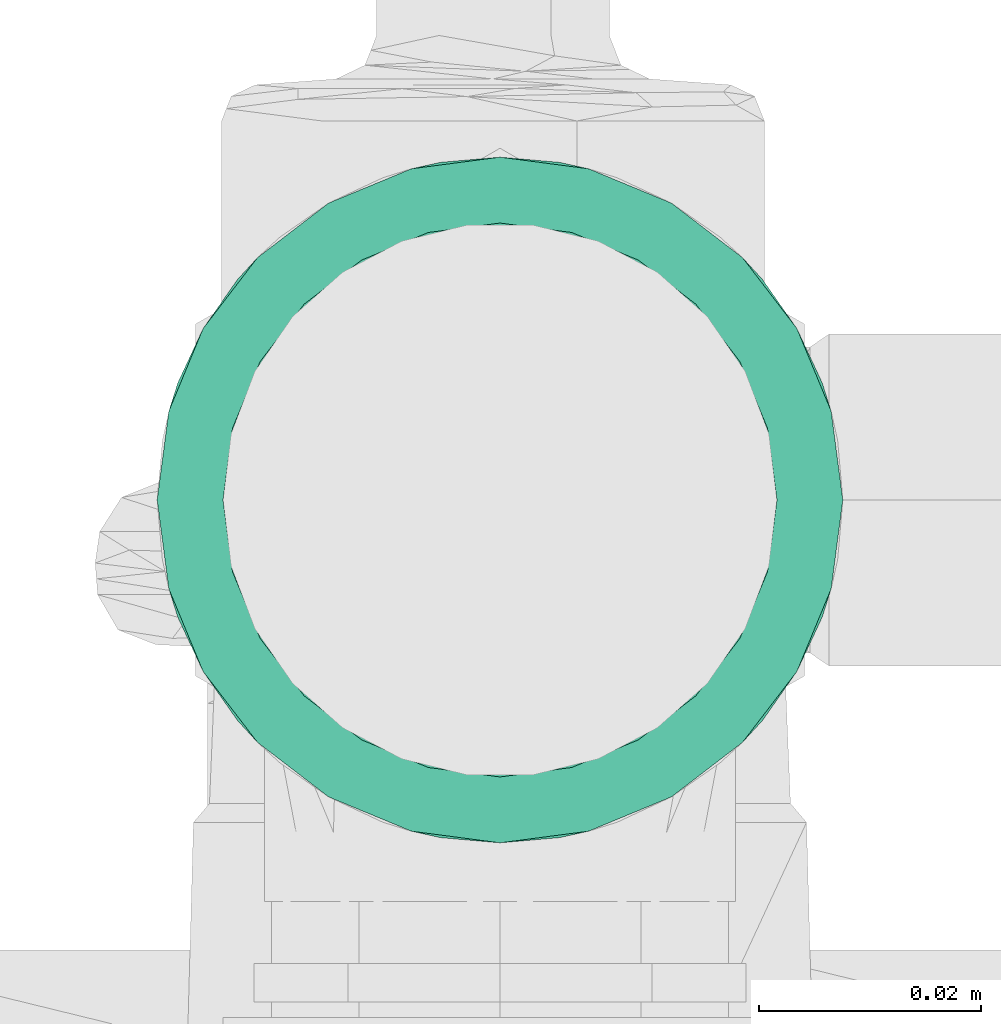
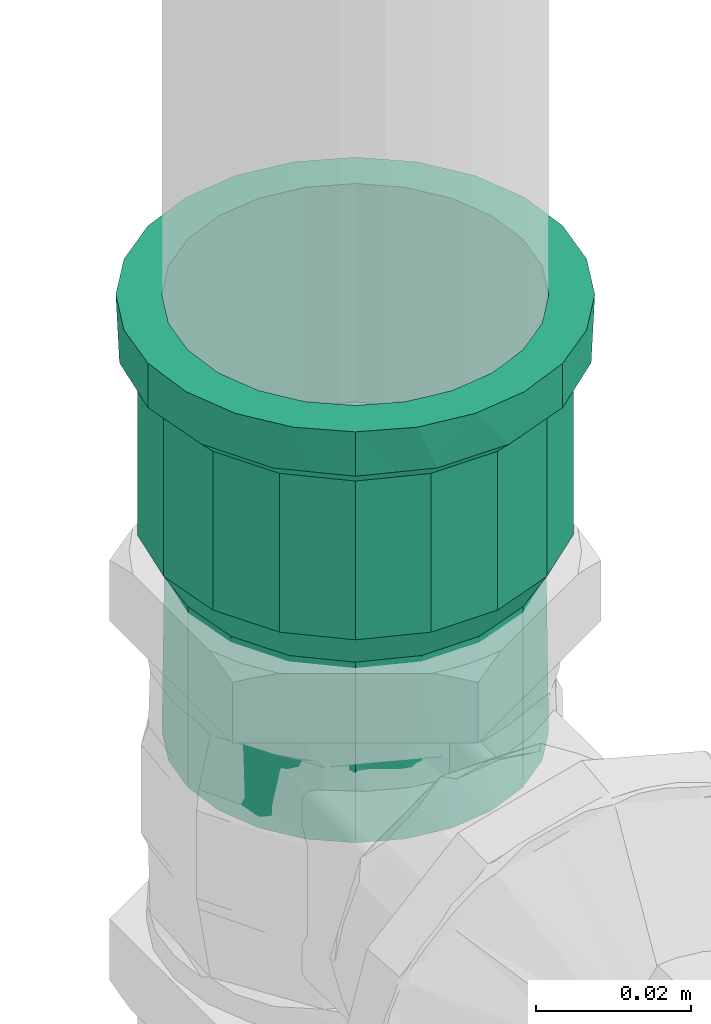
# One storey, part 154 of 589: 1 flow fitting.
"""IFC2X3 building model written with IfcOpenShell, lengths in millimetres."""

from ifc_helpers import new_model, entity, si_unit, converted_unit, derived_unit, direction, frame, origin, place, context, subcontext, project, spatial, faceted_brep, source, transform, mapped, material, type_object, type_shapes, element, save


model = new_model("IFC2X3")

# Units and contexts
model_context = context("Model", 3, precision=0.01, world=origin(), true_north=direction((6.123031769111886e-17, 1.0)))
body_context = subcontext(model_context, "Body", "Model", "MODEL_VIEW")
ifc_project = project(units=[si_unit("LENGTHUNIT", "METRE", prefix="MILLI"), si_unit("AREAUNIT", "SQUARE_METRE"), si_unit("VOLUMEUNIT", "CUBIC_METRE"), converted_unit("PLANEANGLEUNIT", "DEGREE", entity("IfcRatioMeasure", 0.017453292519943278), si_unit("PLANEANGLEUNIT", "RADIAN"), dimensions=[0, 0, 0, 0, 0, 0, 0]), si_unit("MASSUNIT", "GRAM", prefix="KILO"), derived_unit("MASSDENSITYUNIT", [(si_unit("MASSUNIT", "GRAM", prefix="KILO"), 1), (si_unit("LENGTHUNIT", "METRE"), -3)]), derived_unit("IONCONCENTRATIONUNIT", [(si_unit("MASSUNIT", "GRAM", prefix="KILO"), 1), (si_unit("LENGTHUNIT", "METRE"), -3)]), derived_unit("MOMENTOFINERTIAUNIT", [(si_unit("LENGTHUNIT", "METRE"), 4)]), si_unit("TIMEUNIT", "SECOND"), si_unit("FREQUENCYUNIT", "HERTZ"), si_unit("THERMODYNAMICTEMPERATUREUNIT", "DEGREE_CELSIUS"), derived_unit("THERMALTRANSMITTANCEUNIT", [(si_unit("MASSUNIT", "GRAM", prefix="KILO"), 1), (si_unit("THERMODYNAMICTEMPERATUREUNIT", "KELVIN"), -1), (si_unit("TIMEUNIT", "SECOND"), -3)]), derived_unit("THERMALCONDUCTANCEUNIT", [(si_unit("MASSUNIT", "GRAM", prefix="KILO"), 1), (si_unit("THERMODYNAMICTEMPERATUREUNIT", "KELVIN"), -1), (si_unit("TIMEUNIT", "SECOND"), -3), (si_unit("LENGTHUNIT", "METRE"), 1)]), derived_unit("VOLUMETRICFLOWRATEUNIT", [(si_unit("LENGTHUNIT", "METRE"), 3), (si_unit("TIMEUNIT", "SECOND"), -1)]), derived_unit("MASSFLOWRATEUNIT", [(si_unit("MASSUNIT", "GRAM", prefix="KILO"), 1), (si_unit("TIMEUNIT", "SECOND"), -1)]), derived_unit("ROTATIONALFREQUENCYUNIT", [(si_unit("TIMEUNIT", "SECOND"), -1)]), si_unit("ELECTRICCURRENTUNIT", "AMPERE"), si_unit("ELECTRICVOLTAGEUNIT", "VOLT"), si_unit("POWERUNIT", "WATT"), si_unit("FORCEUNIT", "NEWTON", prefix="KILO"), si_unit("ILLUMINANCEUNIT", "LUX"), si_unit("LUMINOUSFLUXUNIT", "LUMEN"), si_unit("LUMINOUSINTENSITYUNIT", "CANDELA"), derived_unit("USERDEFINED", [(si_unit("MASSUNIT", "GRAM", prefix="KILO"), -1), (si_unit("LENGTHUNIT", "METRE"), -2), (si_unit("TIMEUNIT", "SECOND"), 3), (si_unit("LUMINOUSFLUXUNIT", "LUMEN"), 1)]), derived_unit("USERDEFINED", [(si_unit("MASSUNIT", "GRAM", prefix="KILO"), 1), (si_unit("TIMEUNIT", "SECOND"), -3), (si_unit("LENGTHUNIT", "METRE"), 3), (si_unit("ELECTRICCURRENTUNIT", "AMPERE"), -2)]), derived_unit("SOUNDPOWERUNIT", [(si_unit("MASSUNIT", "GRAM", prefix="KILO"), 1), (si_unit("TIMEUNIT", "SECOND"), -3), (si_unit("LENGTHUNIT", "METRE"), 2)]), derived_unit("SOUNDPRESSUREUNIT", [(si_unit("MASSUNIT", "GRAM", prefix="KILO"), 1), (si_unit("LENGTHUNIT", "METRE"), -1), (si_unit("TIMEUNIT", "SECOND"), -2)]), derived_unit("LINEARVELOCITYUNIT", [(si_unit("LENGTHUNIT", "METRE"), 1), (si_unit("TIMEUNIT", "SECOND"), -1)]), si_unit("PRESSUREUNIT", "PASCAL"), derived_unit("USERDEFINED", [(si_unit("MASSUNIT", "GRAM", prefix="KILO"), 1), (si_unit("LENGTHUNIT", "METRE"), -2), (si_unit("TIMEUNIT", "SECOND"), -2)]), derived_unit("LINEARFORCEUNIT", [(si_unit("MASSUNIT", "GRAM", prefix="KILO"), 1), (si_unit("TIMEUNIT", "SECOND"), -2)]), derived_unit("PLANARFORCEUNIT", [(si_unit("MASSUNIT", "GRAM", prefix="KILO"), 1), (si_unit("LENGTHUNIT", "METRE"), -1), (si_unit("TIMEUNIT", "SECOND"), -2)]), derived_unit("SPECIFICHEATCAPACITYUNIT", [(si_unit("THERMODYNAMICTEMPERATUREUNIT", "KELVIN"), -1), (si_unit("LENGTHUNIT", "METRE"), 2), (si_unit("TIMEUNIT", "SECOND"), -2)]), derived_unit("HEATINGVALUEUNIT", [(si_unit("LENGTHUNIT", "METRE"), 2), (si_unit("TIMEUNIT", "SECOND"), -2)]), derived_unit("VAPORPERMEABILITYUNIT", [(si_unit("LENGTHUNIT", "METRE"), -1), (si_unit("TIMEUNIT", "SECOND"), 1)]), derived_unit("DYNAMICVISCOSITYUNIT", [(si_unit("MASSUNIT", "GRAM", prefix="KILO"), 1), (si_unit("TIMEUNIT", "SECOND"), -1), (si_unit("LENGTHUNIT", "METRE"), -1)]), derived_unit("THERMALEXPANSIONCOEFFICIENTUNIT", [(si_unit("THERMODYNAMICTEMPERATUREUNIT", "KELVIN"), -1)]), derived_unit("MODULUSOFELASTICITYUNIT", [(si_unit("MASSUNIT", "GRAM", prefix="KILO"), 1), (si_unit("LENGTHUNIT", "METRE"), -1), (si_unit("TIMEUNIT", "SECOND"), -2)]), derived_unit("ISOTHERMALMOISTURECAPACITYUNIT", [(si_unit("LENGTHUNIT", "METRE"), 3), (si_unit("MASSUNIT", "GRAM", prefix="KILO"), -1)]), derived_unit("MOISTUREDIFFUSIVITYUNIT", [(si_unit("TIMEUNIT", "SECOND"), -1), (si_unit("LENGTHUNIT", "METRE"), 2)])], contexts=[model_context])

# Site, building, storey
site_placement = place(None, origin())
site = spatial("IfcSite", under=ifc_project, at=site_placement, Name="Default", CompositionType="ELEMENT")
building_placement = place(site_placement, origin())
building = spatial("IfcBuilding", under=site, at=building_placement, CompositionType="ELEMENT")
storey_placement = place(building_placement, frame((0.0, 0.0, 100.0)))
storey = spatial("IfcBuildingStorey", under=building, at=storey_placement, Name="TÉRREO", CompositionType="ELEMENT", Elevation=100.0)

# Flow fitting
ifc_material = material(Name="PVC Marrom")
pipe_fitting_type = type_object("IfcPipeFittingType", Name="PVC Marrom Soldável_Adaptador Curto com Bolsa e Rosca Aninhado_Rodrigo MEP:Adaptador", PredefinedType="NOTDEFINED", material=ifc_material)
shared_shape = source(origin(), body_context, "Body", "Brep", [
    faceted_brep([(0.0, 12.499999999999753, -21.65063509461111), (0.0, 21.884954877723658, -21.88495487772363), (0.0, 15.475000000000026, -26.803486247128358), (0.0, 17.677669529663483, -17.6776695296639), (0.0, 6.470476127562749, -24.14814565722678), (0.0, 26.803486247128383, -15.474999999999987), (0.0, 21.650635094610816, -12.500000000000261), (0.0, 24.148145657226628, -6.470476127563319), (0.0, 29.895404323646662, -8.01044944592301), (0.0, 25.0, 0.0), (0.0, 30.95, 0.0), (0.0, 24.14814565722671, 6.470476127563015), (0.0, 29.895404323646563, 8.010449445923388), (0.0, 21.65063509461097, 12.499999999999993), (0.0, 26.80348624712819, 15.475000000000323), (0.0, 17.6776695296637, 17.677669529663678), (0.0, 21.884954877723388, 21.884954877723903), (0.0, 12.500000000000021, 21.65063509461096), (0.0, 15.474999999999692, 26.803486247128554), (0.0, 6.4704761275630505, 24.1481456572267), (0.0, 8.010449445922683, 29.89540432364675), (0.0, 0.0, 25.0), (0.0, 0.0, 30.95), (0.0, -6.4704761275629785, 24.14814565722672), (0.0, -8.010449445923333, 29.895404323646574), (0.0, -12.49999999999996, 21.650635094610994), (0.0, -15.475000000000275, 26.803486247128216), (0.0, -17.677669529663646, 17.67766952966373), (0.0, -21.884954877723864, 21.884954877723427), (0.0, -21.65063509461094, 12.500000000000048), (0.0, -26.803486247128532, 15.474999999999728), (0.0, -29.89540432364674, 8.010449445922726), (0.0, -24.14814565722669, 6.4704761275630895), (0.0, -30.95, 0.0), (0.0, -25.0, 0.0), (0.0, -29.895404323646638, -8.010449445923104), (0.0, -24.148145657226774, -6.470476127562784), (0.0, -26.803486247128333, -15.475000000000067), (0.0, -21.6506350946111, -12.499999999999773), (0.0, -21.884954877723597, -21.884954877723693), (0.0, -17.677669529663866, -17.67766952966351), (0.0, -15.474999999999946, -26.803486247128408), (0.0, -12.500000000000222, -21.650635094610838), (0.0, -8.010449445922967, -29.895404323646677), (0.0, -6.470476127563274, -24.148145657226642), (0.0, 0.0, -30.95), (0.0, 0.0, -25.0), (0.0, 8.010449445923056, -29.895404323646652), (7.0, -30.016595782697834, 5.29316701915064), (7.0, -29.88065133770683, 6.064083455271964), (7.0, -29.083191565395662, 10.586334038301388), (7.0, -23.70796650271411, 19.895598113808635), (7.0, -19.590362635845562, 23.350189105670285), (7.0, -26.395579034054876, 15.24096607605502), (7.0, -5.3710129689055, 30.480398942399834), (7.0, -10.421885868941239, 28.6425895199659), (7.0, -30.95, 0.0), (7.0, -15.472758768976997, 26.804780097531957), (7.0, 10.42907040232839, 28.639974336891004), (7.0, 15.479482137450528, 26.80089798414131), (7.0, 5.37865866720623, 30.479050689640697), (7.0, 19.596219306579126, 23.345274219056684), (7.0, 23.712956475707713, 19.889650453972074), (7.0, 29.08584618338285, 10.57903832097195), (7.0, 30.95, 0.0), (7.0, 26.39940132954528, 15.234344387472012), (7.0, 0.0038228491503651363, 30.47972481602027), (7.0, 29.08584618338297, -10.579038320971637), (7.0, 23.71295647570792, -19.88965045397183), (7.0, 19.596219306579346, -23.3452742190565), (7.0, 26.39940132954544, -15.234344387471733), (7.0, 5.378658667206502, -30.47905068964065), (7.0, 10.429070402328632, -28.639974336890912), (7.0, 15.47948213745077, -26.800897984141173), (7.0, -30.0165957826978, -5.2931670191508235), (7.0, -10.421885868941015, -28.642589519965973), (7.0, -15.472758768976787, -26.804780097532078), (7.0, -5.3710129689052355, -30.480398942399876), (7.0, -19.590362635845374, -23.350189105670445), (7.0, -23.707966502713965, -19.895598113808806), (7.0, -29.083191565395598, -10.58633403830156), (7.0, -29.88065131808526, -6.064083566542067), (7.0, -26.395579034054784, -15.240966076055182), (7.0, 0.003822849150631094, -30.479724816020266), (9.400000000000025, -26.87493630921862, 9.782525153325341), (9.400000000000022, -27.737468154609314, 4.891262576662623), (34.4499999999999, -26.875116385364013, 9.782030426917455), (9.40000000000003, -18.102887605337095, 21.577234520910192), (34.4499999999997, -14.299296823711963, 24.768732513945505), (9.400000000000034, -14.297928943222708, 24.769522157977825), (9.400000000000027, -24.391391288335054, 14.083736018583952), (34.44999999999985, -24.391819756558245, 14.083085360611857), (34.4499999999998, -21.908523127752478, 18.384140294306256), (34.44999999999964, -4.965271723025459, 28.165689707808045), (9.400000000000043, -4.963197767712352, 28.16605524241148), (9.400000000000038, -9.63056335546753, 26.467788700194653), (9.400000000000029, -21.907846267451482, 18.384946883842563), (9.40000000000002, -28.600000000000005, 0.0), (34.44999999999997, -27.796398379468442, 4.557325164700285), (34.44999999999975, -18.103909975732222, 21.57643640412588), (34.44999999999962, 4.967670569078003, 28.165266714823), (9.400000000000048, 0.003532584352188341, 28.165432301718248), (34.44999999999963, 0.0011994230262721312, 28.165478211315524), (34.44999999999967, -9.632284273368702, 26.46721111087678), (9.400000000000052, 4.970262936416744, 28.164809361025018), (9.400000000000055, 9.63720237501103, 26.465372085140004), (34.449999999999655, 14.301406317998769, 24.76751455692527), (9.40000000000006, 14.304141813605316, 24.765934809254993), (34.449999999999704, 18.105747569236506, 21.574894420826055), (34.44999999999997, -27.73755819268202, 4.891015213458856), (34.449999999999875, 26.875949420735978, 9.779741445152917), (34.450000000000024, 28.600000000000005, 0.0), (9.400000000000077, 26.87738936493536, 9.77578339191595), (34.449999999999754, 21.910088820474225, 18.38227428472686), (9.40000000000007, 21.91245735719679, 18.379450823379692), (9.400000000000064, 18.108299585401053, 21.57269281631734), (34.44999999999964, 9.634538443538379, 26.46639063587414), (9.400000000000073, 24.394923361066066, 14.077617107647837), (34.450000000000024, -28.600000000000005, 0.0), (9.40000000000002, 28.600000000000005, 0.0), (34.44999999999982, 24.3930191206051, 14.081007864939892), (9.40000000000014, 26.87738936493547, -9.77578339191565), (34.45000000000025, 26.87594942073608, -9.77974144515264), (9.400000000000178, -18.10288760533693, -21.577234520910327), (34.45000000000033, -14.299296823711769, -24.76873251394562), (34.45000000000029, -18.10390997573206, -21.57643640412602), (9.400000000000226, 18.108299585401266, -21.57269281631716), (9.400000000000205, 21.912457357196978, -18.37945082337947), (34.450000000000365, 21.910088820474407, -18.38227428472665), (9.400000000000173, 24.394923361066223, -14.077617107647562), (34.45000000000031, 24.393019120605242, -14.081007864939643), (9.40000000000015, -21.907846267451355, -18.384946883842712), (34.45000000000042, 0.0011994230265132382, -28.165478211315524), (9.400000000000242, -4.963197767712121, -28.166055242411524), (9.40000000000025, 0.0035325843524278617, -28.165432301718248), (9.40000000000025, 9.637202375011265, -26.46537208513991), (9.400000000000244, 14.304141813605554, -24.765934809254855), (34.45000000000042, 14.301406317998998, -24.76751455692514), (9.400000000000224, -9.63056335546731, -26.467788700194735), (34.45000000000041, -4.965271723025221, -28.165689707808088), (34.45000000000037, -9.632284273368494, -26.467211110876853), (34.45000000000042, 9.634538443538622, -26.46639063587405), (9.400000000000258, 4.970262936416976, -28.164809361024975), (9.400000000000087, -26.874936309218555, -9.782525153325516), (9.40000000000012, -24.391391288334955, -14.083736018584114), (34.45000000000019, -24.391819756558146, -14.083085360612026), (34.450000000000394, 18.1057475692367, -21.574894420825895), (34.450000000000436, 4.967670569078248, -28.16526671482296), (34.45000000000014, -26.875116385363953, -9.782030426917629), (34.45000000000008, -27.796398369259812, -4.557325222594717), (9.400000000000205, -14.297928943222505, -24.769522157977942), (9.400000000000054, -27.737468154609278, -4.891262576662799), (34.450000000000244, -21.908523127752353, -18.38414029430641), (34.45000000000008, -27.737558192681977, -4.891015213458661), (69.0, 6.4704761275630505, -24.1481456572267), (69.0, 12.500000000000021, -21.65063509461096), (69.0, 17.6776695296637, -17.677669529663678), (69.0, 21.650635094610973, -12.499999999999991), (69.0, 24.14814565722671, -6.470476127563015), (69.0, 25.0, 0.0), (69.0, 24.148145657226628, 6.470476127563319), (69.0, 21.650635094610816, 12.500000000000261), (69.0, 17.677669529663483, 17.6776695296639), (69.0, 12.499999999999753, 21.65063509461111), (69.0, 6.470476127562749, 24.14814565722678), (69.0, 0.0, 25.0), (69.0, -6.470476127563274, 24.148145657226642), (69.0, -12.500000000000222, 21.650635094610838), (69.0, -17.67766952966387, 17.677669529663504), (69.0, -21.650635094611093, 12.499999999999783), (69.0, -24.148145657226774, 6.470476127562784), (69.0, -25.0, 0.0), (69.0, -24.14814565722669, -6.4704761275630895), (69.0, -21.650635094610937, -12.500000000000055), (69.0, -17.677669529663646, -17.67766952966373), (69.0, -12.49999999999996, -21.650635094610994), (69.0, -6.4704761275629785, -24.14814565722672), (69.0, 0.0, -25.0), (40.499999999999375, -8.41832461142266, 23.136178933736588), (40.49999999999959, -19.1502152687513, 16.070757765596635), (40.49999999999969, -21.321146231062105, 12.310958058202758), (40.49999999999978, -23.492077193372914, 8.551158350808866), (40.49999999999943, -12.498189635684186, 21.651680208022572), (40.49999999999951, -15.824202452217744, 18.861218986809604), (40.49999999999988, -24.246038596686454, 4.2755791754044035), (40.49999999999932, -4.3384595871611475, 24.620677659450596), (40.499999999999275, 4.344635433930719, 24.61958860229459), (40.499999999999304, 0.003087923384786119, 24.620133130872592), (40.49999999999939, 15.828933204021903, 18.85724896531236), (40.49999999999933, 12.503620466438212, 21.648544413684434), (40.49999999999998, -25.0, 0.0), (40.49999999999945, 19.154245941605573, 16.065953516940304), (40.49999999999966, 23.494221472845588, 8.545265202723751), (40.499999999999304, 8.424127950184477, 23.13406650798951), (40.49999999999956, 21.324233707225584, 12.305609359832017), (40.49999999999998, 25.0, 0.0), (40.500000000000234, 19.15424594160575, -16.065953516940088), (40.500000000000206, -15.824202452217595, -18.861218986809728), (40.50000000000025, -12.498189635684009, -21.65168020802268), (40.500000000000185, 21.32423370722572, -12.305609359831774), (40.50000000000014, 23.494221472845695, -8.545265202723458), (40.5000000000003, 12.503620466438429, -21.64854441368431), (40.50000000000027, 15.82893320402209, -18.8572489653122), (40.50000000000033, 4.344635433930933, -24.619588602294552), (40.50000000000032, 8.42412795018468, -23.13406650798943), (40.5000000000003, -4.3384595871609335, -24.62067765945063), (40.50000000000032, 0.00308792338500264, -24.620133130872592), (40.50000000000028, -8.41832461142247, -23.136178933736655), (40.50000000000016, -19.150215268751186, -16.070757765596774), (40.50000000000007, -23.49207719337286, -8.551158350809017), (40.500000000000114, -21.321146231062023, -12.31095805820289), (40.50000000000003, -24.246038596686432, -4.275579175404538), (9.40000000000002, -25.0, 0.0), (34.450000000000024, -25.0, 0.0), (34.450000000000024, -24.14814565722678, -6.470476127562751), (9.40000000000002, -24.14814565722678, -6.470476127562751), (7.0, -24.14814565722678, -6.470476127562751), (7.0, -25.0, 0.0), (34.450000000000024, -21.650635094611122, -12.499999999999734), (9.40000000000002, -21.650635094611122, -12.499999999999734), (7.0, -21.650635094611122, -12.499999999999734), (9.40000000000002, -12.500000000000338, -21.65063509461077), (7.0, -12.500000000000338, -21.65063509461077), (7.0, -17.677669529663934, -17.677669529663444), (9.40000000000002, -17.677669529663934, -17.677669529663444), (34.450000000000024, -17.677669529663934, -17.677669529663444), (34.450000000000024, -12.500000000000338, -21.65063509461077), (9.40000000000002, -6.470476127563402, -24.148145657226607), (7.0, -6.470476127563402, -24.148145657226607), (34.450000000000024, -6.470476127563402, -24.148145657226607), (34.450000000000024, 0.0, -25.0), (9.40000000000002, 0.0, -25.0), (7.0, 0.0, -25.0), (34.450000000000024, 6.470476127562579, -24.148145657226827), (9.40000000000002, 6.470476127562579, -24.148145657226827), (7.0, 6.470476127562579, -24.148145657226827), (34.450000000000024, 12.49999999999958, -21.65063509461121), (9.40000000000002, 12.49999999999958, -21.65063509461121), (7.0, 12.49999999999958, -21.65063509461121), (34.450000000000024, 24.148145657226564, -6.470476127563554), (34.450000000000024, 25.0, 0.0), (9.40000000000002, 25.0, 0.0), (7.0, 25.0, 0.0), (7.0, 24.14814565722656, -6.470476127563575), (9.40000000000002, 24.148145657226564, -6.470476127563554), (34.450000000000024, 17.677669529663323, -17.677669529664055), (9.40000000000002, 17.677669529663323, -17.677669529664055), (7.0, 17.677669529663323, -17.677669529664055), (34.450000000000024, 21.650635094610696, -12.500000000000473), (9.40000000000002, 21.650635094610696, -12.500000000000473), (7.0, 21.650635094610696, -12.500000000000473), (34.450000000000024, 24.148145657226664, 6.470476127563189), (9.40000000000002, 24.148145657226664, 6.470476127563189), (7.0, 24.148145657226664, 6.470476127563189), (34.450000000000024, 21.65063509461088, 12.50000000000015), (9.40000000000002, 21.65063509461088, 12.50000000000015), (7.0, 21.65063509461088, 12.50000000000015), (9.40000000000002, 12.49999999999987, 21.650635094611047), (7.0, 12.49999999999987, 21.650635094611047), (7.0, 17.677669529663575, 17.677669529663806), (9.40000000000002, 17.677669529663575, 17.677669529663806), (34.450000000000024, 17.677669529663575, 17.677669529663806), (34.450000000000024, 12.49999999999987, 21.650635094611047), (9.40000000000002, 6.470476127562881, 24.14814565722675), (7.0, 6.470476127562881, 24.14814565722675), (34.450000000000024, 6.470476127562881, 24.14814565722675), (34.450000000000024, 0.0, 25.0), (9.40000000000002, 0.0, 25.0), (7.0, 0.0, 25.0), (9.40000000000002, -17.677669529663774, 17.677669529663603), (7.0, -17.677669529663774, 17.677669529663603), (7.0, -12.50000000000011, 21.650635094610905), (9.40000000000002, -12.50000000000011, 21.650635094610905), (34.450000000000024, -12.50000000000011, 21.650635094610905), (34.450000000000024, -17.677669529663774, 17.677669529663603), (9.40000000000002, -24.14814565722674, 6.470476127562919), (7.0, -24.14814565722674, 6.470476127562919), (7.0, -21.650635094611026, 12.499999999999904), (9.40000000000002, -21.650635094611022, 12.499999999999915), (34.450000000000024, -21.650635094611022, 12.499999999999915), (34.450000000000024, -24.14814565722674, 6.470476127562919), (7.0, -6.470476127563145, 24.148145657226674), (9.40000000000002, -6.470476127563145, 24.148145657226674), (34.450000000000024, -6.470476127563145, 24.148145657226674)], [[[0, 1, 2]], [[3, 1, 0]], [[4, 0, 2]], [[1, 3, 5]], [[5, 3, 6]], [[5, 6, 7]], [[8, 5, 7]], [[9, 8, 7]], [[10, 8, 9]], [[10, 9, 11]], [[12, 10, 11]], [[12, 11, 13]], [[14, 12, 13]], [[14, 13, 15]], [[15, 16, 14]], [[15, 17, 16]], [[18, 16, 17]], [[19, 18, 17]], [[18, 19, 20]], [[21, 20, 19]], [[22, 20, 21]], [[21, 23, 22]], [[24, 22, 23]], [[25, 24, 23]], [[24, 25, 26]], [[25, 27, 26]], [[27, 28, 26]], [[28, 27, 29]], [[28, 29, 30]], [[30, 29, 31]], [[31, 29, 32]], [[33, 31, 32]], [[32, 34, 33]], [[33, 34, 35]], [[34, 36, 35]], [[37, 35, 36]], [[37, 36, 38]], [[39, 37, 38]], [[40, 39, 38]], [[40, 41, 39]], [[42, 41, 40]], [[43, 41, 42]], [[42, 44, 43]], [[43, 44, 45]], [[44, 46, 45]], [[46, 4, 47]], [[45, 46, 47]], [[2, 47, 4]], [[31, 48, 49, 50]], [[28, 51, 52]], [[51, 30, 50, 53]], [[54, 24, 55]], [[30, 31, 50]], [[56, 48, 33]], [[52, 57, 26]], [[52, 26, 28]], [[30, 51, 28]], [[58, 59, 18]], [[58, 18, 20]], [[26, 57, 55]], [[26, 55, 24]], [[22, 24, 54]], [[33, 48, 31]], [[20, 60, 58]], [[16, 61, 62]], [[12, 63, 64]], [[63, 14, 62, 65]], [[12, 64, 10]], [[18, 61, 16]], [[22, 54, 66, 60]], [[22, 60, 20]], [[14, 16, 62]], [[59, 61, 18]], [[14, 63, 12]], [[8, 64, 67]], [[1, 68, 69]], [[68, 5, 67, 70]], [[71, 47, 72]], [[5, 8, 67]], [[8, 10, 64]], [[2, 72, 47]], [[69, 73, 2]], [[5, 68, 1]], [[74, 33, 35]], [[75, 76, 41]], [[2, 73, 72]], [[75, 41, 43]], [[45, 47, 71]], [[69, 2, 1]], [[43, 77, 75]], [[39, 78, 79]], [[35, 80, 81, 74]], [[80, 37, 79, 82]], [[37, 80, 35]], [[41, 78, 39]], [[45, 71, 83, 77]], [[45, 77, 43]], [[37, 39, 79]], [[76, 78, 41]], [[74, 56, 33]], [[84, 85, 86]], [[87, 88, 89]], [[90, 91, 92]], [[93, 94, 95]], [[92, 96, 90]], [[85, 97, 98]], [[99, 87, 96]], [[91, 84, 86]], [[100, 101, 102]], [[93, 95, 103]], [[89, 103, 95]], [[84, 91, 90]], [[100, 104, 101]], [[88, 87, 99]], [[105, 106, 107]], [[108, 107, 106]], [[85, 98, 109, 86]], [[102, 94, 93]], [[110, 111, 112]], [[113, 114, 115]], [[116, 104, 100]], [[112, 117, 110]], [[113, 115, 108]], [[104, 116, 105]], [[97, 118, 98]], [[115, 107, 108]], [[119, 112, 111]], [[99, 96, 92]], [[117, 114, 120]], [[110, 117, 120]], [[103, 89, 88]], [[102, 101, 94]], [[120, 114, 113]], [[106, 105, 116]], [[121, 111, 122]], [[123, 124, 125]], [[126, 127, 128]], [[129, 122, 130]], [[125, 131, 123]], [[129, 121, 122]], [[132, 133, 134]], [[135, 136, 137]], [[138, 139, 140]], [[119, 111, 121]], [[130, 127, 129]], [[141, 142, 135]], [[143, 144, 145]], [[126, 128, 146]], [[134, 147, 132]], [[135, 137, 141]], [[132, 139, 133]], [[138, 133, 139]], [[137, 136, 146]], [[143, 145, 148]], [[147, 142, 141]], [[149, 118, 97]], [[123, 150, 124]], [[124, 150, 140]], [[148, 151, 143]], [[146, 136, 126]], [[152, 144, 131]], [[151, 148, 153, 149]], [[144, 152, 145]], [[152, 131, 125]], [[142, 147, 134]], [[149, 97, 151]], [[128, 127, 130]], [[140, 150, 138]], [[154, 155, 156, 157, 158, 159, 160, 161, 162, 163, 164, 165, 166, 167, 168, 169, 170, 171, 172, 173, 174, 175, 176, 177]], [[178, 167, 166]], [[169, 168, 179]], [[169, 179, 180, 181]], [[182, 183, 167]], [[170, 181, 184]], [[166, 185, 178]], [[179, 168, 183]], [[165, 186, 187, 185]], [[165, 185, 166]], [[167, 183, 168]], [[188, 189, 163]], [[184, 171, 170]], [[184, 190, 171]], [[161, 191, 162]], [[169, 181, 170]], [[161, 160, 192]], [[163, 193, 164]], [[161, 192, 194, 191]], [[195, 160, 159]], [[164, 193, 186]], [[186, 165, 164]], [[189, 193, 163]], [[188, 163, 162]], [[162, 191, 188]], [[160, 195, 192]], [[178, 182, 167]], [[195, 159, 158]], [[157, 156, 196]], [[197, 198, 175]], [[157, 196, 199, 200]], [[201, 202, 155]], [[200, 195, 158]], [[154, 203, 204]], [[196, 156, 202]], [[177, 205, 206, 203]], [[197, 175, 174]], [[155, 202, 156]], [[204, 201, 155]], [[175, 198, 207]], [[157, 200, 158]], [[204, 155, 154]], [[173, 208, 174]], [[173, 172, 209]], [[173, 209, 210, 208]], [[171, 190, 211]], [[205, 177, 176]], [[207, 205, 176]], [[175, 207, 176]], [[174, 208, 197]], [[211, 209, 172]], [[171, 211, 172]], [[177, 203, 154]], [[212, 213, 214, 215, 216, 36, 34, 217]], [[215, 214, 218, 219, 220, 38, 36, 216]], [[221, 222, 42, 40, 223, 224, 225, 226]], [[225, 224, 223, 40, 38, 220, 219, 218]], [[227, 228, 44, 42, 222, 221, 226, 229]], [[227, 229, 230, 231, 232, 46, 44, 228]], [[231, 230, 233, 234, 235, 4, 46, 232]], [[234, 233, 236, 237, 238, 0, 4, 235]], [[239, 240, 241, 242, 9, 7, 243, 244]], [[237, 236, 245, 246, 247, 3, 0, 238]], [[245, 248, 249, 250, 6, 3, 247, 246]], [[248, 239, 244, 243, 7, 6, 250, 249]], [[241, 240, 251, 252, 253, 11, 9, 242]], [[252, 251, 254, 255, 256, 13, 11, 253]], [[257, 258, 17, 15, 259, 260, 261, 262]], [[261, 260, 259, 15, 13, 256, 255, 254]], [[263, 264, 19, 17, 258, 257, 262, 265]], [[263, 265, 266, 267, 268, 21, 19, 264]], [[269, 270, 27, 25, 271, 272, 273, 274]], [[275, 276, 32, 29, 277, 278, 279, 280]], [[274, 279, 278, 277, 29, 27, 270, 269]], [[212, 217, 34, 32, 276, 275, 280, 213]], [[273, 272, 271, 25, 23, 281, 282, 283]], [[267, 266, 283, 282, 281, 23, 21, 268]], [[64, 119, 121, 67]], [[81, 80, 143, 151, 97, 56, 74]], [[73, 136, 135, 142, 71, 72]], [[71, 142, 134, 133, 77, 83]], [[73, 69, 68, 127, 126, 136]], [[127, 68, 70, 67, 121, 129]], [[77, 133, 138, 150, 76, 75]], [[143, 80, 82, 79, 131, 144]], [[78, 76, 150, 123, 131, 79]], [[84, 50, 49, 48, 56, 97, 85]], [[53, 50, 84, 90, 96, 51]], [[52, 51, 96, 87, 89, 57]], [[89, 95, 94, 54, 55, 57]], [[101, 104, 60, 66, 54, 94]], [[105, 107, 59, 58, 60, 104]], [[112, 119, 64, 63]], [[114, 117, 112, 63, 65, 62]], [[107, 115, 114, 62, 61, 59]], [[233, 230, 229, 226, 225, 218, 214, 213, 280, 279, 274, 273, 283, 266, 265, 262, 261, 254, 251, 240, 239, 248, 245, 236]], [[190, 109, 98, 118]], [[184, 86, 109]], [[181, 86, 184]], [[185, 93, 178]], [[103, 88, 182]], [[99, 92, 179]], [[182, 88, 183]], [[91, 86, 181]], [[103, 182, 178]], [[178, 93, 103]], [[102, 185, 187]], [[180, 92, 91]], [[187, 100, 102]], [[91, 181, 180]], [[183, 88, 99]], [[99, 179, 183]], [[187, 186, 100]], [[191, 113, 188]], [[116, 100, 186]], [[179, 92, 180]], [[93, 185, 102]], [[189, 106, 193]], [[192, 195, 111]], [[120, 113, 191]], [[192, 110, 194]], [[108, 106, 189]], [[120, 191, 194]], [[194, 110, 120]], [[109, 190, 184]], [[188, 113, 108]], [[192, 111, 110]], [[108, 189, 188]], [[193, 106, 116]], [[116, 186, 193]], [[195, 200, 111]], [[203, 141, 204]], [[201, 146, 202]], [[196, 130, 199]], [[203, 147, 141]], [[201, 137, 146]], [[205, 132, 206]], [[196, 128, 130]], [[202, 128, 196]], [[111, 200, 122]], [[199, 130, 122]], [[146, 128, 202]], [[207, 139, 205]], [[206, 147, 203]], [[204, 141, 137]], [[199, 122, 200]], [[205, 139, 132]], [[204, 137, 201]], [[198, 124, 140]], [[198, 140, 207]], [[190, 153, 211]], [[209, 145, 210]], [[190, 118, 149, 153]], [[209, 148, 145]], [[208, 125, 197]], [[208, 152, 125]], [[210, 152, 208]], [[139, 207, 140]], [[125, 124, 197]], [[210, 145, 152]], [[211, 153, 148]], [[197, 124, 198]], [[206, 132, 147]], [[211, 148, 209]]]),
])
type_shapes(pipe_fitting_type, [shared_shape])
flow_fitting_placement = place(storey_placement, frame((8798.142188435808, -7965.828664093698, 2275.0), z_axis=(0.0, -1.0, 0.0), x_axis=(0.0, 0.0, -1.0)))
element("IfcFlowFitting", 1, at=flow_fitting_placement, inside=storey, type_object=pipe_fitting_type, material=ifc_material, Name="PVC Marrom Soldável_Adaptador Curto com Bolsa e Rosca Aninhado_Rodrigo MEP:Adaptador", ObjectType="PVC Marrom Soldável_Adaptador Curto com Bolsa e Rosca Aninhado_Rodrigo MEP:Adaptador", context=body_context, shape_type="MappedRepresentation", body=[
    mapped(shared_shape, transform((0.0, 0.0, 0.0), scale=1.0)),
])

save(model, "model.ifc")
